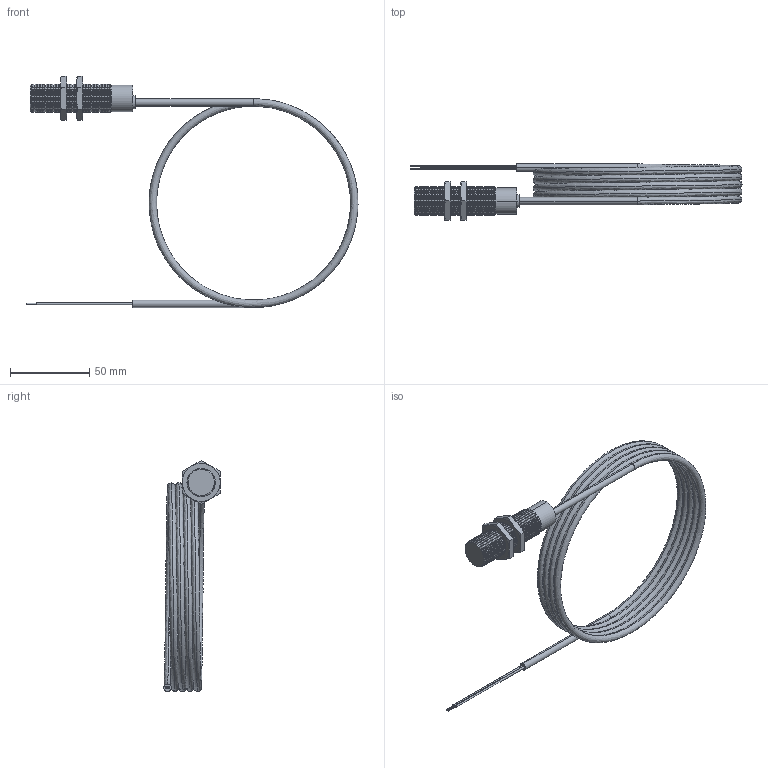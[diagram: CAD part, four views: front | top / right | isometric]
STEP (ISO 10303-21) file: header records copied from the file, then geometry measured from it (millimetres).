
FILE_DESCRIPTION (( 'STEP AP203' ), '1' );
FILE_NAME ('90-XXXX-017.STEP', '2015-10-28T13:14:29', ( 'Sam' ), ( 'Spade' ), 'SwSTEP 2.0', 'SolidWorks 2002296', '' );
FILE_SCHEMA (( 'CONFIG_CONTROL_DESIGN' ));
Length unit declared in the file: inch
Products named in the file (13): 90-XXXX-017; Imported166; Imported165; Imported162; Imported161; Imported160; Imported159; Imported170; Imported169; Imported168; Imported167; Imported164; Imported163
Assembly tree (12 placements, depth 2):
  90-XXXX-017
    Imported166
    Imported170
    Imported165
    Imported169
    Imported160
    Imported163
    Imported159
    Imported167
    Imported162
    Imported168
    Imported161
    Imported164
Bounding box: 209.36 x 35.6 x 145.73 mm (x, y, z)
Volume: 52774.1 mm3; surface area: 38884.1 mm2
Topology: 12 solids, 12 shells, 443 faces, 886 edges, 474 vertices
Faces by surface type: cone 264, cylinder 126, plane 43, bspline 10
Entity records: 14331 total; most frequent: CARTESIAN_POINT 3694, DIRECTION 2158, ORIENTED_EDGE 1772, AXIS2_PLACEMENT_3D 890, EDGE_CURVE 886, VERTEX_POINT 474, EDGE_LOOP 454, FACE_OUTER_BOUND 443
